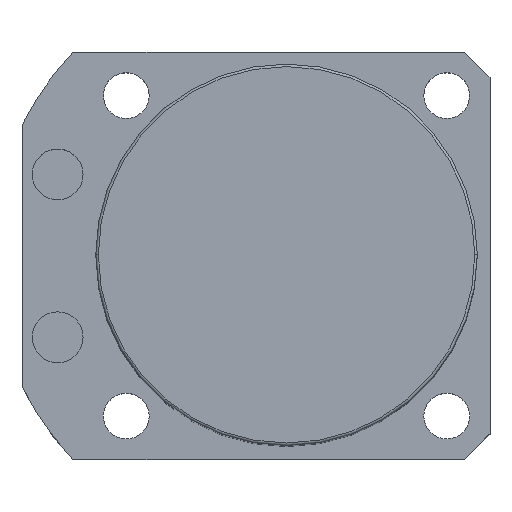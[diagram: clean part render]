
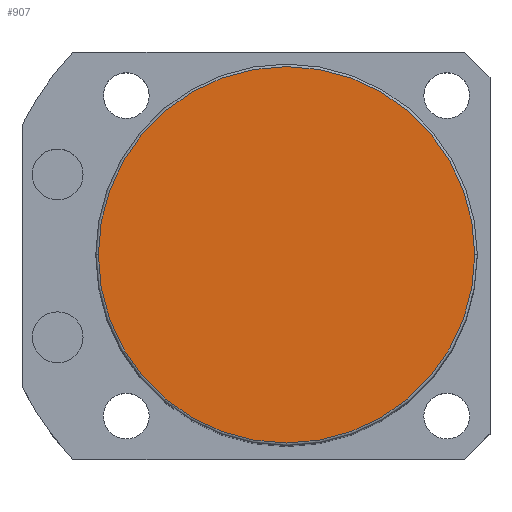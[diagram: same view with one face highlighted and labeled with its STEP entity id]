
A CAD part, top view. The second image highlights one B-rep face of the part: STEP entity #907.
In plain terms, the highlighted planar face has unit normal (0, 0, 1).
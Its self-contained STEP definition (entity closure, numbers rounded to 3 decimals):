
#75 = VERTEX_POINT ( 'NONE', #1096 ) ;
#97 = DIRECTION ( 'NONE',  ( 0., 0., 1. ) ) ;
#168 = DIRECTION ( 'NONE',  ( 1., 0., 0. ) ) ;
#353 = CIRCLE ( 'NONE', #2109, 37. ) ;
#441 = AXIS2_PLACEMENT_3D ( 'NONE', #818, #1042, #2155 ) ;
#447 = DIRECTION ( 'NONE',  ( 1., 0., 0. ) ) ;
#543 = DIRECTION ( 'NONE',  ( 0., 0., 1. ) ) ;
#653 = PLANE ( 'NONE',  #441 ) ;
#679 = ORIENTED_EDGE ( 'NONE', *, *, #973, .T. ) ;
#818 = CARTESIAN_POINT ( 'NONE',  ( 0., 0., 135.5 ) ) ;
#907 = ADVANCED_FACE ( 'NONE', ( #1736 ), #653, .T. ) ;
#973 = EDGE_CURVE ( 'NONE', #1379, #75, #353, .T. ) ;
#1002 = ORIENTED_EDGE ( 'NONE', *, *, #2120, .T. ) ;
#1042 = DIRECTION ( 'NONE',  ( 0., 0., 1. ) ) ;
#1096 = CARTESIAN_POINT ( 'NONE',  ( -37., 0., 135.5 ) ) ;
#1375 = AXIS2_PLACEMENT_3D ( 'NONE', #2241, #543, #168 ) ;
#1379 = VERTEX_POINT ( 'NONE', #2110 ) ;
#1603 = CARTESIAN_POINT ( 'NONE',  ( 0., 0., 135.5 ) ) ;
#1736 = FACE_OUTER_BOUND ( 'NONE', #1848, .T. ) ;
#1749 = CIRCLE ( 'NONE', #1375, 37. ) ;
#1848 = EDGE_LOOP ( 'NONE', ( #679, #1002 ) ) ;
#2109 = AXIS2_PLACEMENT_3D ( 'NONE', #1603, #97, #447 ) ;
#2110 = CARTESIAN_POINT ( 'NONE',  ( 37., 0., 135.5 ) ) ;
#2120 = EDGE_CURVE ( 'NONE', #75, #1379, #1749, .T. ) ;
#2155 = DIRECTION ( 'NONE',  ( 1., 0., 0. ) ) ;
#2241 = CARTESIAN_POINT ( 'NONE',  ( 0., 0., 135.5 ) ) ;
